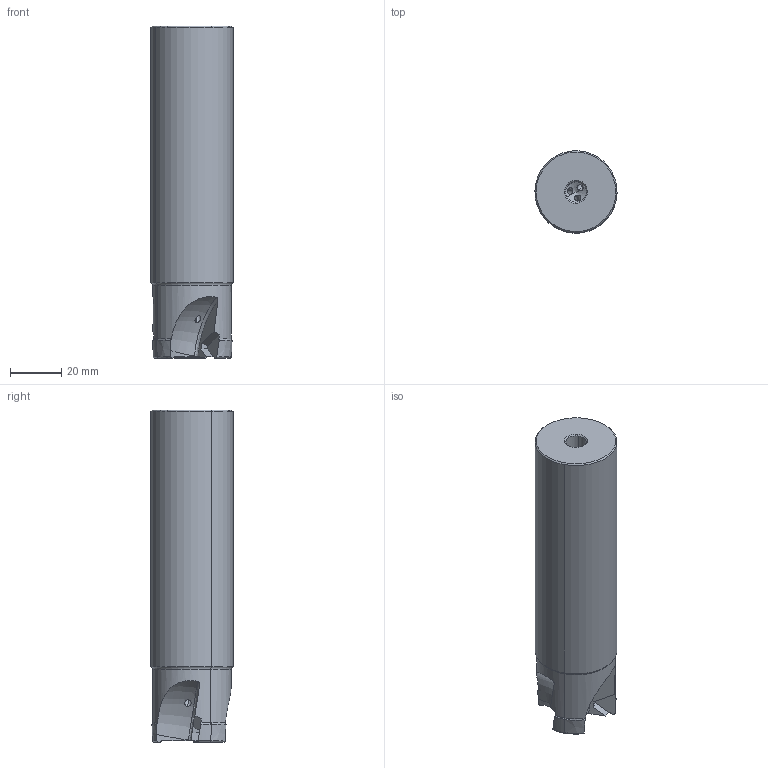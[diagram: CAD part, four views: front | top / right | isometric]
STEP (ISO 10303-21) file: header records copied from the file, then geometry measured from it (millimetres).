
FILE_DESCRIPTION(('CATIA V5 STEP'),'2;1');
FILE_NAME('I:\isr\design\admin8\users\yousef_k\3106416-D.stp','2012-11-18T07:45:05+00:00',('none'),('none'),'CATIA Version 5 Release 21 SP 3 (IN-10)','CATIA V5 STEP AP214','none');
FILE_SCHEMA(('AUTOMOTIVE_DESIGN { 1 0 10303 214 1 1 1 1 }'));
Length unit declared in the file: millimetre
Products named in the file (1): 61070979_0  HM390 ETP D32-3-C32-10
Bounding box: 31.99 x 31.99 x 129.4 mm (x, y, z)
Volume: 90249.3 mm3; surface area: 17479.8 mm2
Topology: 1 solids, 1 shells, 76 faces, 207 edges, 131 vertices
Faces by surface type: torus 21, plane 20, cylinder 18, cone 14, revolution 3
Entity records: 2561 total; most frequent: CARTESIAN_POINT 877, ORIENTED_EDGE 410, DIRECTION 231, EDGE_CURVE 205, VERTEX_POINT 131, AXIS2_PLACEMENT_3D 114, B_SPLINE_CURVE_WITH_KNOTS 84, EDGE_LOOP 82
